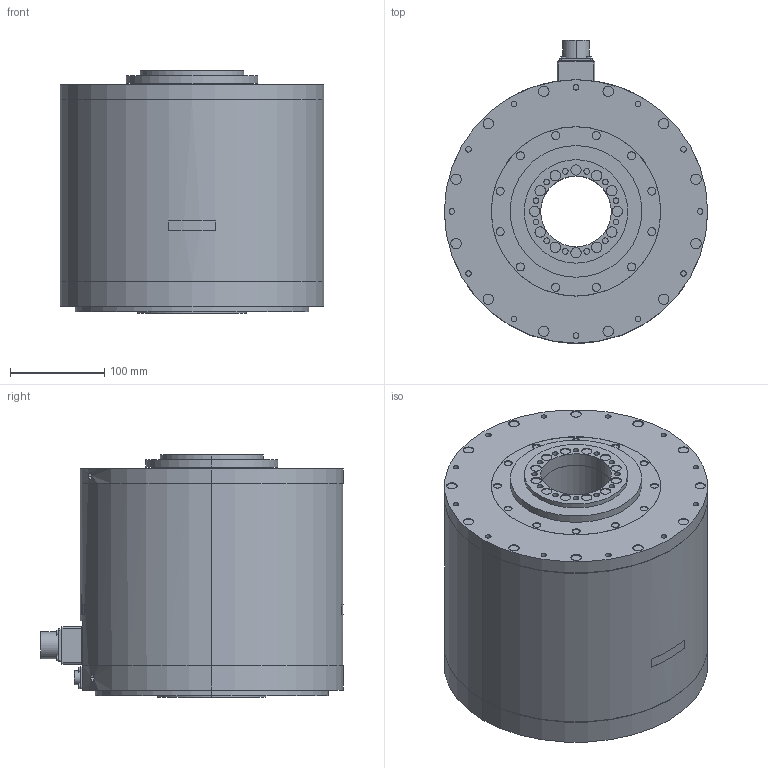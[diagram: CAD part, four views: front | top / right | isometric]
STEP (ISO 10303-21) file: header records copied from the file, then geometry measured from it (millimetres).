
FILE_DESCRIPTION (( 'STEP AP203' ), '1' );
FILE_NAME ('sgm7f_1am_a3_.STEP', '2016-08-19T11:17:20', ( '' ), ( '' ), 'SwSTEP 2.0', 'SolidWorks 2010', '' );
FILE_SCHEMA (( 'CONFIG_CONTROL_DESIGN' ));
Length unit declared in the file: millimetre
Products named in the file (1): sgm7f_1am_a3_
Bounding box: 280 x 322 x 257.5 mm (x, y, z)
Volume: 13647580.4 mm3; surface area: 435479.8 mm2
Topology: 1 solids, 1 shells, 536 faces, 1134 edges, 756 vertices
Faces by surface type: cylinder 324, plane 207, bspline 5
Entity records: 15359 total; most frequent: CARTESIAN_POINT 3062, DIRECTION 2830, ORIENTED_EDGE 2268, AXIS2_PLACEMENT_3D 1188, EDGE_CURVE 1134, VERTEX_POINT 756, EDGE_LOOP 694, CIRCLE 656
